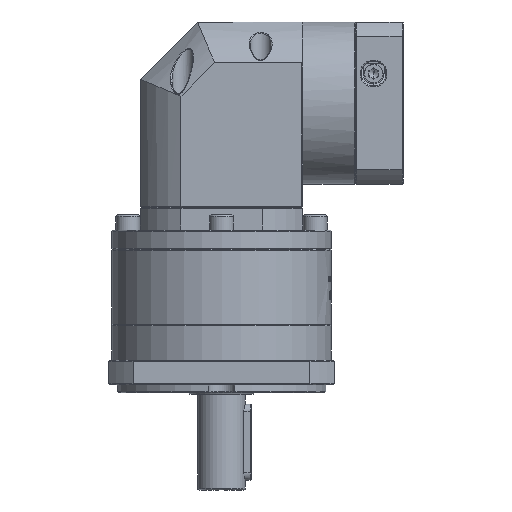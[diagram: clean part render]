
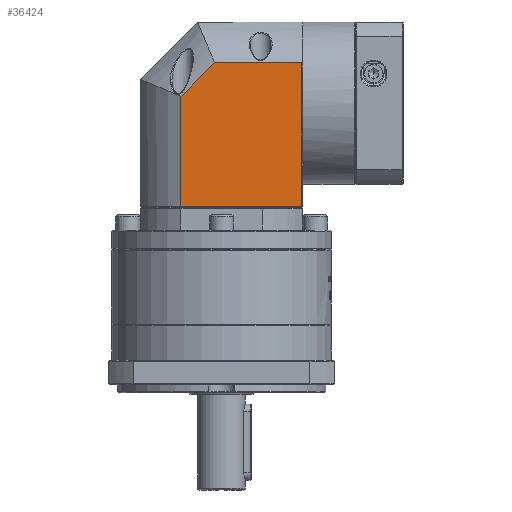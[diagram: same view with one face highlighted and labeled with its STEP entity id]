
A CAD part, front view. The second image highlights one B-rep face of the part: STEP entity #36424.
In plain terms, the highlighted planar face has unit normal (0, -1, 0).
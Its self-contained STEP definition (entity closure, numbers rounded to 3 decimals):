
#3860 = VECTOR ( 'NONE', #145140, 1000. ) ;
#5895 = EDGE_CURVE ( 'NONE', #29893, #166105, #108171, .T. ) ;
#11186 = VERTEX_POINT ( 'NONE', #153107 ) ;
#11711 = CARTESIAN_POINT ( 'NONE',  ( 25.143, 109.022, -13.632 ) ) ;
#12834 = VECTOR ( 'NONE', #163368, 1000. ) ;
#19504 = ORIENTED_EDGE ( 'NONE', *, *, #5895, .F. ) ;
#20201 = CARTESIAN_POINT ( 'NONE',  ( 88.356, 109.022, 82.868 ) ) ;
#21469 = ORIENTED_EDGE ( 'NONE', *, *, #33765, .F. ) ;
#25751 = DIRECTION ( 'NONE',  ( 0.707, 0., 0.707 ) ) ;
#26915 = VERTEX_POINT ( 'NONE', #141976 ) ;
#29893 = VERTEX_POINT ( 'NONE', #11711 ) ;
#33765 = EDGE_CURVE ( 'NONE', #145470, #26915, #56270, .T. ) ;
#36424 = ADVANCED_FACE ( 'NONE', ( #148170 ), #40044, .F. ) ;
#40044 = PLANE ( 'NONE',  #128057 ) ;
#43840 = EDGE_LOOP ( 'NONE', ( #130226, #108562, #21469, #147887, #19504 ) ) ;
#55458 = CARTESIAN_POINT ( 'NONE',  ( 88.856, 109.022, 82.868 ) ) ;
#56270 = LINE ( 'NONE', #139335, #64845 ) ;
#64845 = VECTOR ( 'NONE', #126799, 1000. ) ;
#68137 = CARTESIAN_POINT ( 'NONE',  ( 88.856, 109.022, -13.632 ) ) ;
#70375 = EDGE_CURVE ( 'NONE', #166105, #145470, #124314, .T. ) ;
#71988 = DIRECTION ( 'NONE',  ( 0., 0., -1. ) ) ;
#106957 = CARTESIAN_POINT ( 'NONE',  ( 25.143, 109.022, 44.051 ) ) ;
#108171 = LINE ( 'NONE', #144549, #3860 ) ;
#108562 = ORIENTED_EDGE ( 'NONE', *, *, #165710, .F. ) ;
#119874 = VECTOR ( 'NONE', #71988, 1000. ) ;
#124314 = LINE ( 'NONE', #131716, #145705 ) ;
#125836 = LINE ( 'NONE', #68137, #12834 ) ;
#126799 = DIRECTION ( 'NONE',  ( 1., 0., 0. ) ) ;
#128057 = AXIS2_PLACEMENT_3D ( 'NONE', #55458, #135347, #136531 ) ;
#130226 = ORIENTED_EDGE ( 'NONE', *, *, #148473, .T. ) ;
#131268 = CARTESIAN_POINT ( 'NONE',  ( 42.673, 109.022, 61.581 ) ) ;
#131716 = CARTESIAN_POINT ( 'NONE',  ( 25.143, 109.022, 44.051 ) ) ;
#135347 = DIRECTION ( 'NONE',  ( 0., 1., 0. ) ) ;
#136531 = DIRECTION ( 'NONE',  ( -1., 0., 0. ) ) ;
#139335 = CARTESIAN_POINT ( 'NONE',  ( 88.856, 109.022, 61.581 ) ) ;
#141976 = CARTESIAN_POINT ( 'NONE',  ( 88.356, 109.022, 61.581 ) ) ;
#144549 = CARTESIAN_POINT ( 'NONE',  ( 25.143, 109.022, 82.868 ) ) ;
#145140 = DIRECTION ( 'NONE',  ( 0., 0., 1. ) ) ;
#145470 = VERTEX_POINT ( 'NONE', #131268 ) ;
#145705 = VECTOR ( 'NONE', #25751, 1000. ) ;
#147887 = ORIENTED_EDGE ( 'NONE', *, *, #70375, .F. ) ;
#148170 = FACE_OUTER_BOUND ( 'NONE', #43840, .T. ) ;
#148473 = EDGE_CURVE ( 'NONE', #29893, #11186, #125836, .T. ) ;
#153107 = CARTESIAN_POINT ( 'NONE',  ( 88.356, 109.022, -13.632 ) ) ;
#156117 = LINE ( 'NONE', #20201, #119874 ) ;
#163368 = DIRECTION ( 'NONE',  ( 1., 0., 0. ) ) ;
#165710 = EDGE_CURVE ( 'NONE', #26915, #11186, #156117, .T. ) ;
#166105 = VERTEX_POINT ( 'NONE', #106957 ) ;
